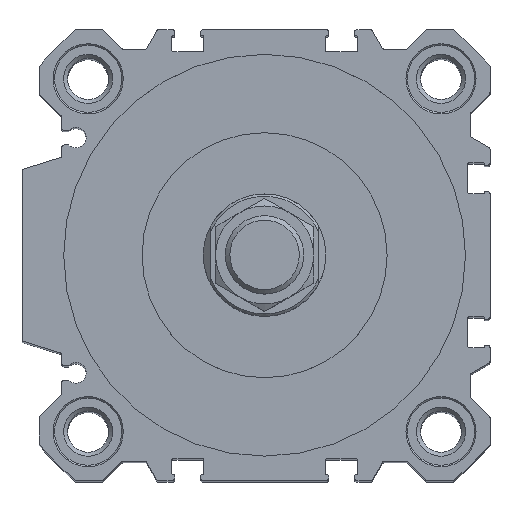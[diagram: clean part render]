
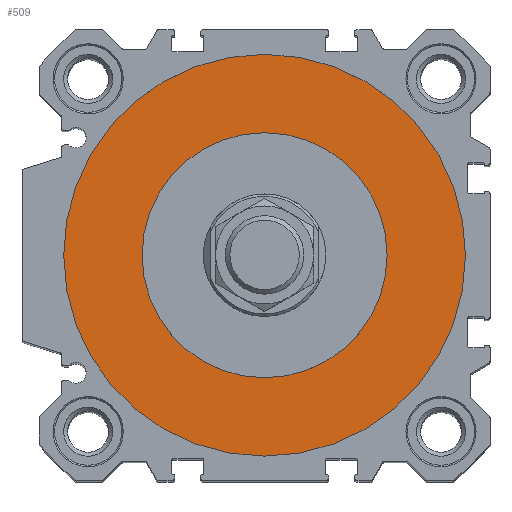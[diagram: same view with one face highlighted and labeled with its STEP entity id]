
A CAD part, top view. The second image highlights one B-rep face of the part: STEP entity #509.
In plain terms, the highlighted planar face has unit normal (0, 0, 1).
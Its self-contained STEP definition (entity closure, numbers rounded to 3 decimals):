
#509 = ADVANCED_FACE( '', ( #1199, #1200 ), #1201, .T. );
#1199 = FACE_BOUND( '', #2097, .T. );
#1200 = FACE_OUTER_BOUND( '', #2098, .T. );
#1201 = PLANE( '', #2099 );
#2097 = EDGE_LOOP( '', ( #3528 ) );
#2098 = EDGE_LOOP( '', ( #3529 ) );
#2099 = AXIS2_PLACEMENT_3D( '', #3530, #3531, #3532 );
#3528 = ORIENTED_EDGE( '', *, *, #5331, .F. );
#3529 = ORIENTED_EDGE( '', *, *, #5544, .T. );
#3530 = CARTESIAN_POINT( '', ( 0., 0., -2.9 ) );
#3531 = DIRECTION( '', ( 0., 0., 1. ) );
#3532 = DIRECTION( '', ( 1., 0., 0. ) );
#5331 = EDGE_CURVE( '', #6426, #6426, #6427, .T. );
#5544 = EDGE_CURVE( '', #6792, #6792, #6793, .T. );
#6426 = VERTEX_POINT( '', #7949 );
#6427 = CIRCLE( '', #7950, 25. );
#6792 = VERTEX_POINT( '', #8435 );
#6793 = CIRCLE( '', #8436, 41. );
#7949 = CARTESIAN_POINT( '', ( 25., 0., -2.9 ) );
#7950 = AXIS2_PLACEMENT_3D( '', #9658, #9659, #9660 );
#8435 = CARTESIAN_POINT( '', ( 41., 0., -2.9 ) );
#8436 = AXIS2_PLACEMENT_3D( '', #10021, #10022, #10023 );
#9658 = CARTESIAN_POINT( '', ( 0., 0., -2.9 ) );
#9659 = DIRECTION( '', ( 0., 0., 1. ) );
#9660 = DIRECTION( '', ( 1., 0., 0. ) );
#10021 = CARTESIAN_POINT( '', ( 0., 0., -2.9 ) );
#10022 = DIRECTION( '', ( 0., 0., 1. ) );
#10023 = DIRECTION( '', ( 1., 0., 0. ) );
